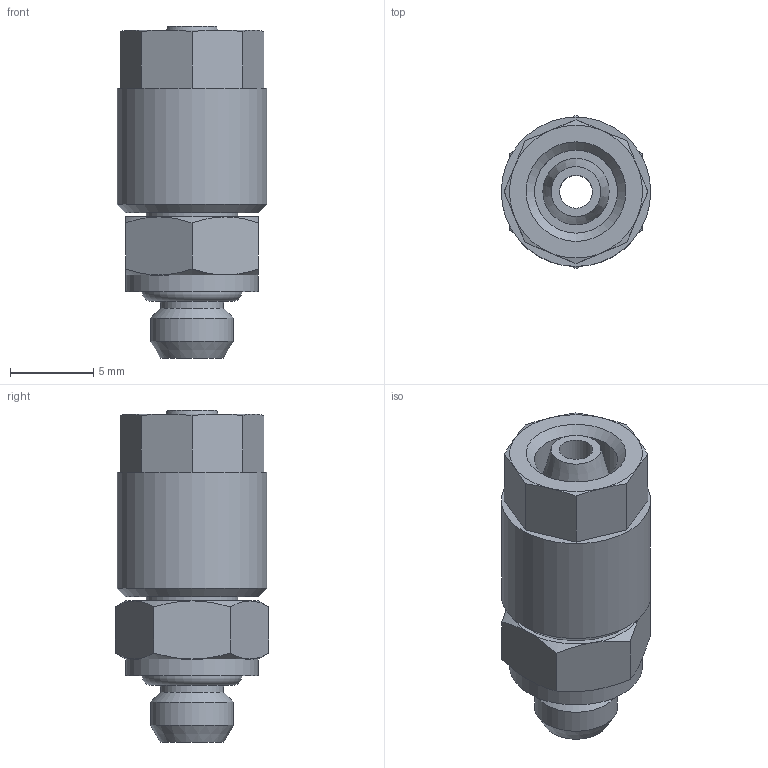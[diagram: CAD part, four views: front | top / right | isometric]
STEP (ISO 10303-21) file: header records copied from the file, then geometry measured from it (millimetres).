
FILE_DESCRIPTION(/* description */ (''),/* implementation_level */ '2;1');
FILE_NAME(/* name */ '10205_301Z_53_M5_08.09.15',/* time_stamp */ '2015-09-08T08:01:46+02:00',/* author */ (''),/* organization */ (''),/* preprocessor_version */ 'ST-DEVELOPER v14',/* originating_system */ 'HiCAD 2013 1802.4 Build 509',/* authorisation */ '');
FILE_SCHEMA (('AUTOMOTIVE_DESIGN { 1 0 10303 214 1 1 1 1 }'));
Length unit declared in the file: millimetre
Products named in the file (4): Root; R10205; OR 4X1.2; 17003
Assembly tree (3 placements, depth 2):
  Root
    R10205
    OR 4X1.2
    17003
Bounding box: 9 x 9.24 x 20 mm (x, y, z)
Volume: 900.4 mm3; surface area: 1237.2 mm2
Topology: 3 solids, 3 shells, 67 faces, 149 edges, 92 vertices
Faces by surface type: cone 31, plane 23, cylinder 10, torus 3
Full cylindrical faces by diameter (mm): 2 x1, 3.7 x1, 3.8 x1, 5 x2, 5.5 x1, 6.08 x1, 7 x1, 8 x1, 9 x1
Entity records: 2849 total; most frequent: DIRECTION 348, CARTESIAN_POINT 264, PRESENTATION_STYLE_ASSIGNMENT 227, COLOUR_RGB 226, DRAUGHTING_PRE_DEFINED_CURVE_FONT 224, CURVE_STYLE 224, OVER_RIDING_STYLED_ITEM 224, ORIENTED_EDGE 224
